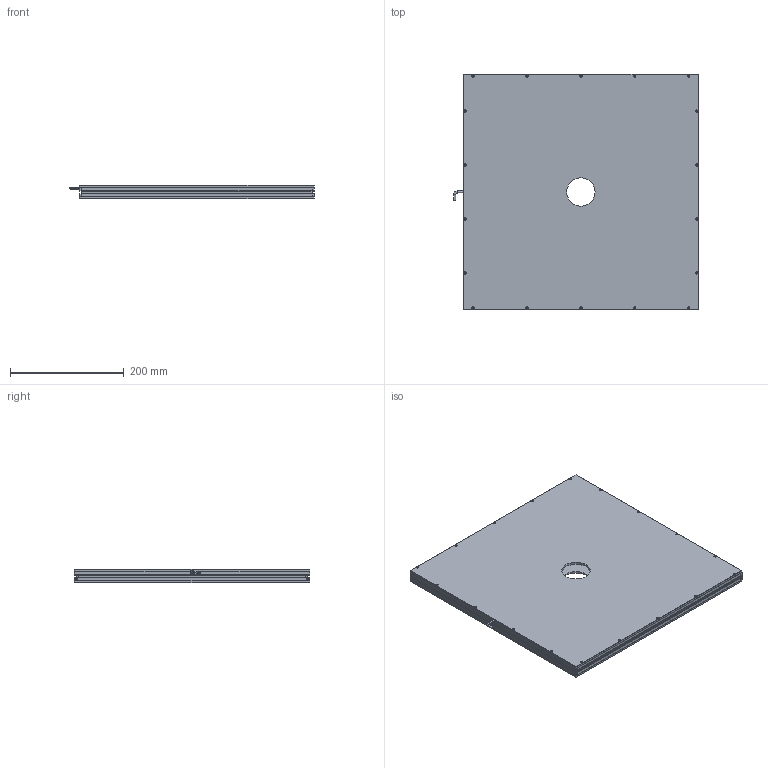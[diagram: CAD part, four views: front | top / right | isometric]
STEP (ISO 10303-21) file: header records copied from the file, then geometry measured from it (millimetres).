
FILE_DESCRIPTION (( 'STEP AP203' ), '1' );
FILE_NAME ('CRT-2KFLD400400Y50-¼òÒ×3DÍ¼.STEP', '2021-11-25T01:09:32', ( 'Admin' ), ( '' ), 'SwSTEP 2.0', 'SolidWorks 2018', '' );
FILE_SCHEMA (( 'CONFIG_CONTROL_DESIGN' ));
Length unit declared in the file: millimetre
Products named in the file (1): CRT-2KFLD400400Y50-潠眢3D芞
Bounding box: 431.25 x 414 x 23 mm (x, y, z)
Surface area: 889177.5 mm2 (no closed solid volume)
Topology: 0 solids, 8 shells, 231 faces, 816 edges, 576 vertices
Faces by surface type: cylinder 107, plane 77, cone 45, bspline 2
Entity records: 9061 total; most frequent: CARTESIAN_POINT 1758, DIRECTION 1595, ORIENTED_EDGE 1302, EDGE_CURVE 816, VERTEX_POINT 576, AXIS2_PLACEMENT_3D 569, LINE 457, VECTOR 457
